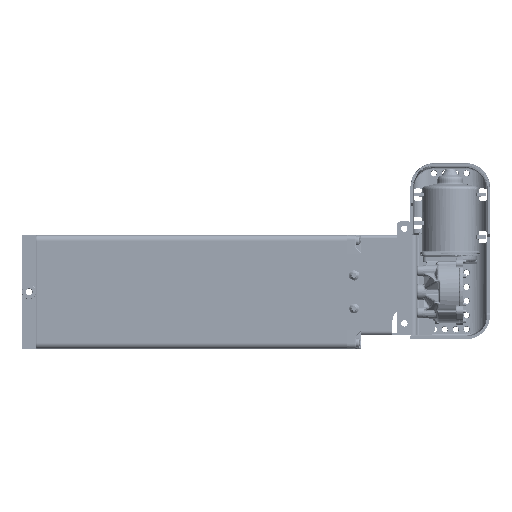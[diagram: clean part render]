
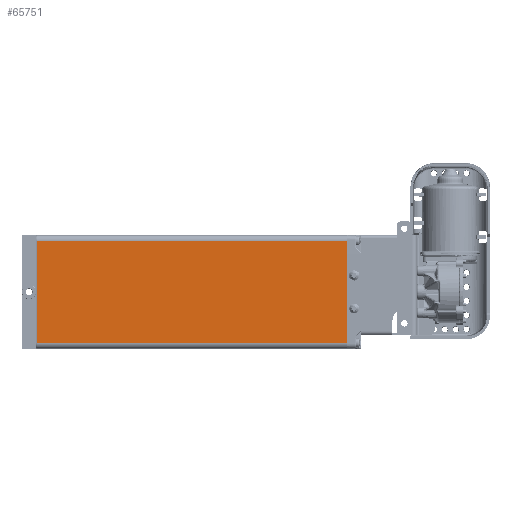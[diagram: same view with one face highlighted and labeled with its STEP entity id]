
A CAD part, top view. The second image highlights one B-rep face of the part: STEP entity #65751.
In plain terms, the highlighted planar face has unit normal (0, 0, 1).
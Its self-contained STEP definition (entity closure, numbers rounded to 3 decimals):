
#5907=LINE('',#113309,#8638);
#5908=LINE('',#113312,#8639);
#5909=LINE('',#113314,#8640);
#5910=LINE('',#113316,#8641);
#8638=VECTOR('',#76633,1000.);
#8639=VECTOR('',#76634,1000.);
#8640=VECTOR('',#76635,1000.);
#8641=VECTOR('',#76636,1000.);
#10758=PLANE('',#69624);
#15911=ORIENTED_EDGE('',*,*,#29797,.T.);
#15912=ORIENTED_EDGE('',*,*,#29798,.T.);
#15913=ORIENTED_EDGE('',*,*,#29799,.T.);
#15914=ORIENTED_EDGE('',*,*,#29800,.T.);
#29797=EDGE_CURVE('',#36967,#36968,#5907,.F.);
#29798=EDGE_CURVE('',#36968,#36969,#5908,.T.);
#29799=EDGE_CURVE('',#36969,#36970,#5909,.T.);
#29800=EDGE_CURVE('',#36970,#36967,#5910,.F.);
#36967=VERTEX_POINT('',#113310);
#36968=VERTEX_POINT('',#113311);
#36969=VERTEX_POINT('',#113313);
#36970=VERTEX_POINT('',#113315);
#43920=EDGE_LOOP('',(#15911,#15912,#15913,#15914));
#47938=FACE_BOUND('',#43920,.T.);
#65751=ADVANCED_FACE('',(#47938),#10758,.T.);
#69624=AXIS2_PLACEMENT_3D('',#113308,#76631,#76632);
#76631=DIRECTION('',(0.,0.,1.));
#76632=DIRECTION('',(1.,0.,0.));
#76633=DIRECTION('',(0.,-1.,0.));
#76634=DIRECTION('',(-1.,0.,0.));
#76635=DIRECTION('',(0.,-1.,0.));
#76636=DIRECTION('',(-1.,0.,0.));
#113308=CARTESIAN_POINT('',(60.,328.5,30.));
#113309=CARTESIAN_POINT('',(54.,328.5,30.));
#113310=CARTESIAN_POINT('',(54.,0.5,30.));
#113311=CARTESIAN_POINT('',(54.,328.,30.));
#113312=CARTESIAN_POINT('',(60.,328.,30.));
#113313=CARTESIAN_POINT('',(-54.,328.,30.));
#113314=CARTESIAN_POINT('',(-54.,328.5,30.));
#113315=CARTESIAN_POINT('',(-54.,0.5,30.));
#113316=CARTESIAN_POINT('',(54.,0.5,30.));
